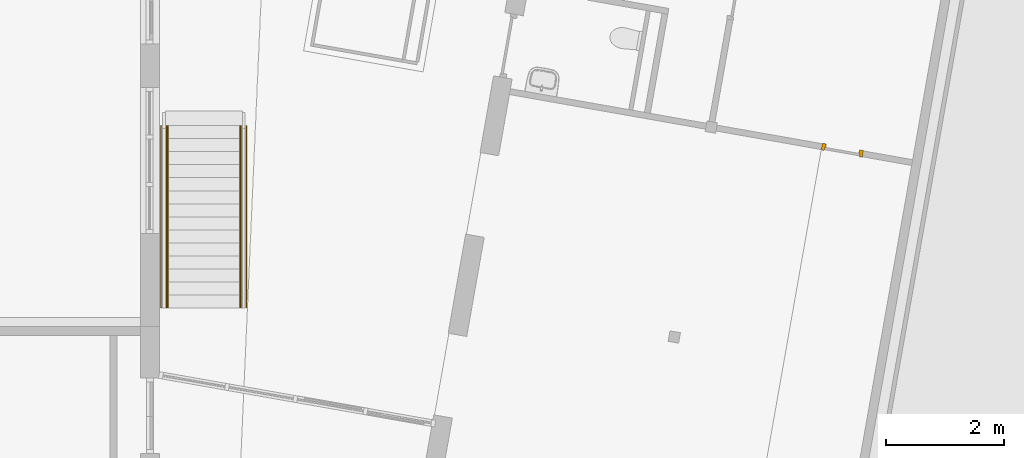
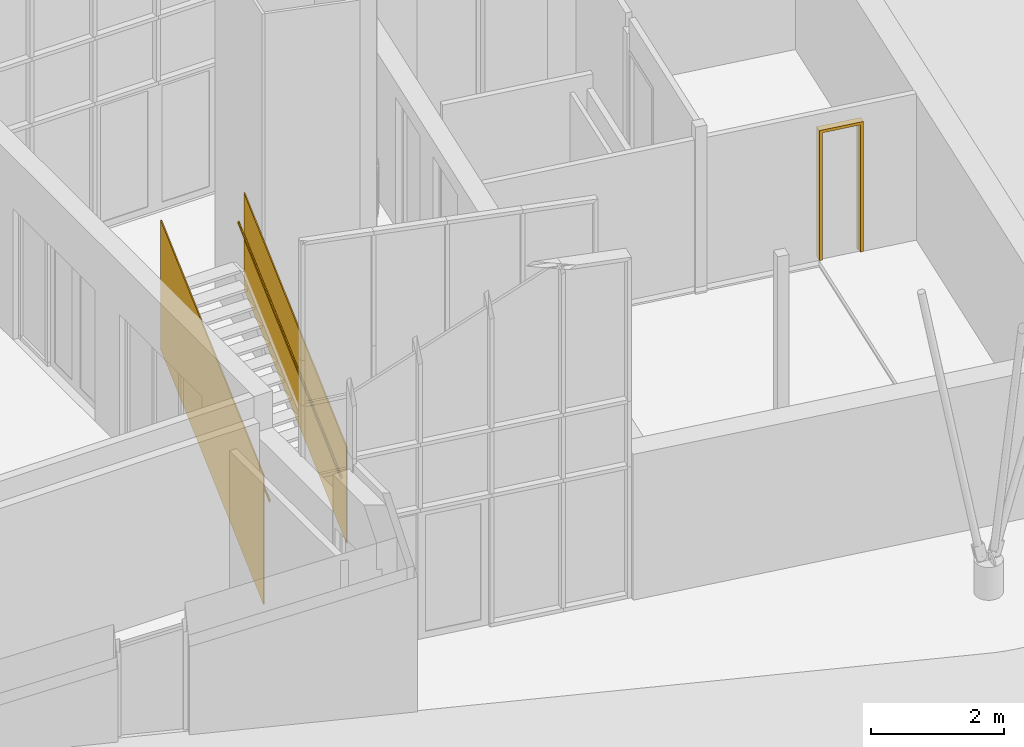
# One storey, part 18 of 21: 2 railings, 1 door, 1 element without a shape of its own.
"""IFC2X3 building model written with IfcOpenShell, lengths in millimetres."""

from ifc_helpers import new_model, entity, si_unit, converted_unit, derived_unit, direction, frame, origin, place, context, subcontext, project, spatial, faceted_brep, source, transform, mapped, material, material_list, type_object, type_shapes, element, aggregate, save


model = new_model("IFC2X3")

# Units and contexts
model_context = context("Model", 3, precision=0.01, world=origin(), true_north=direction((6.12303176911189e-17, 1.0)))
body_context = subcontext(model_context, "Body", "Model", "MODEL_VIEW")
ifc_project = project(units=[si_unit("LENGTHUNIT", "METRE", prefix="MILLI"), si_unit("AREAUNIT", "SQUARE_METRE"), si_unit("VOLUMEUNIT", "CUBIC_METRE"), converted_unit("PLANEANGLEUNIT", "DEGREE", entity("IfcRatioMeasure", 0.0174532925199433), si_unit("PLANEANGLEUNIT", "RADIAN"), dimensions=[0, 0, 0, 0, 0, 0, 0]), si_unit("MASSUNIT", "GRAM", prefix="KILO"), derived_unit("MASSDENSITYUNIT", [(si_unit("MASSUNIT", "GRAM", prefix="KILO"), 1), (si_unit("LENGTHUNIT", "METRE"), -3)]), derived_unit("MOMENTOFINERTIAUNIT", [(si_unit("LENGTHUNIT", "METRE"), 4)]), si_unit("TIMEUNIT", "SECOND"), si_unit("FREQUENCYUNIT", "HERTZ"), si_unit("THERMODYNAMICTEMPERATUREUNIT", "DEGREE_CELSIUS"), derived_unit("THERMALTRANSMITTANCEUNIT", [(si_unit("MASSUNIT", "GRAM", prefix="KILO"), 1), (si_unit("THERMODYNAMICTEMPERATUREUNIT", "KELVIN"), -1), (si_unit("TIMEUNIT", "SECOND"), -3)]), derived_unit("VOLUMETRICFLOWRATEUNIT", [(si_unit("LENGTHUNIT", "METRE"), 3), (si_unit("TIMEUNIT", "SECOND"), -1)]), si_unit("ELECTRICCURRENTUNIT", "AMPERE"), si_unit("ELECTRICVOLTAGEUNIT", "VOLT"), si_unit("POWERUNIT", "WATT"), si_unit("FORCEUNIT", "NEWTON", prefix="KILO"), si_unit("ILLUMINANCEUNIT", "LUX"), si_unit("LUMINOUSFLUXUNIT", "LUMEN"), si_unit("LUMINOUSINTENSITYUNIT", "CANDELA"), derived_unit("USERDEFINED", [(si_unit("MASSUNIT", "GRAM", prefix="KILO"), -1), (si_unit("LENGTHUNIT", "METRE"), -2), (si_unit("TIMEUNIT", "SECOND"), 3), (si_unit("LUMINOUSFLUXUNIT", "LUMEN"), 1)]), derived_unit("LINEARVELOCITYUNIT", [(si_unit("LENGTHUNIT", "METRE"), 1), (si_unit("TIMEUNIT", "SECOND"), -1)]), si_unit("PRESSUREUNIT", "PASCAL"), derived_unit("USERDEFINED", [(si_unit("LENGTHUNIT", "METRE"), -2), (si_unit("MASSUNIT", "GRAM", prefix="KILO"), 1), (si_unit("TIMEUNIT", "SECOND"), -2)]), derived_unit("LINEARFORCEUNIT", [(si_unit("MASSUNIT", "GRAM", prefix="KILO"), 1), (si_unit("LENGTHUNIT", "METRE"), 1), (si_unit("TIMEUNIT", "SECOND"), -2), (si_unit("LENGTHUNIT", "METRE"), -1)]), derived_unit("PLANARFORCEUNIT", [(si_unit("MASSUNIT", "GRAM", prefix="KILO"), 1), (si_unit("LENGTHUNIT", "METRE"), 1), (si_unit("TIMEUNIT", "SECOND"), -2), (si_unit("LENGTHUNIT", "METRE"), -2)])], contexts=[model_context])

# Site, building, storey
site_placement = place(None, origin())
site = spatial("IfcSite", under=ifc_project, at=site_placement, Name="<Kadaster Gemeente>;<Kadaster nummer>;<Kadaster sectie>", CompositionType="ELEMENT")
building_placement = place(site_placement, origin())
building = spatial("IfcBuilding", under=site, at=building_placement, Name="JRCZ Middelburg", CompositionType="ELEMENT")
storey_placement = place(building_placement, origin())
storey = spatial("IfcBuildingStorey", under=building, at=storey_placement, Name="00 begane grond", CompositionType="ELEMENT", Elevation=0.0)

# Door
ifc_material_1 = material(Name="<Unnamed>")
ifc_material_list_1 = material_list([ifc_material_1, ifc_material_1, ifc_material_1])
ifc_material_list_2 = material_list([ifc_material_1, ifc_material_1])
door_style = type_object("IfcDoorStyle", Name="NLRS_32_DO_UN_samenstelling binnenkozijn hout-SH_generiek_ISR:enkele deur_gen", ConstructionType="USERDEFINED", OperationType="NOTDEFINED", ParameterTakesPrecedence=False, Sizeable=False, material=ifc_material_list_2)
shared_shape = source(origin(), body_context, "Body", "Brep", [
    faceted_brep([(302.0, 0.0, 0.0), (352.0, 0.0, 0.0), (352.0, -114.0, 0.0), (285.0, -114.0, 0.0), (285.0, -54.0, 0.0), (302.0, -54.0, 0.0), (302.0, 0.0, 2327.0), (302.0, -54.0, 2310.0), (302.0, -54.0, 2327.0), (285.0, -54.0, 2310.0), (285.0, -114.0, 2310.0), (352.0, -114.0, 2310.0), (352.0, 0.0, 2327.0), (352.0, -54.0, 2327.0), (352.0, -54.0, 2310.0)], [[[0, 1, 2, 3, 4, 5]], [[6, 0, 5, 7, 8]], [[4, 9, 7, 5]], [[3, 10, 9, 4]], [[2, 11, 10, 3]], [[1, 12, 13, 14, 11, 2]], [[12, 1, 0, 6]], [[6, 8, 13, 12]], [[7, 9, 10, 11, 14]], [[14, 13, 8, 7]]]),
    faceted_brep([(-352.0, 0.0, 2327.0), (-352.0, -54.0, 2327.0), (-352.0, -54.0, 2310.0), (-352.0, -114.0, 2310.0), (-352.0, -114.0, 2377.0), (-352.0, 0.0, 2377.0), (352.0, 0.0, 2327.0), (352.0, 0.0, 2377.0), (352.0, -114.0, 2377.0), (352.0, -114.0, 2310.0), (352.0, -54.0, 2310.0), (352.0, -54.0, 2327.0)], [[[0, 1, 2, 3, 4, 5]], [[6, 7, 8, 9, 10, 11]], [[1, 0, 6, 11]], [[2, 1, 11, 10]], [[3, 2, 10, 9]], [[4, 3, 9, 8]], [[5, 4, 8, 7]], [[0, 5, 7, 6]]]),
    faceted_brep([(-302.0, 0.0, 0.0), (-302.0, -54.0, 0.0), (-285.0, -54.0, 0.0), (-285.0, -114.0, 0.0), (-352.0, -114.0, 0.0), (-352.0, 0.0, 0.0), (-302.0, 0.0, 2327.0), (-302.0, -54.0, 2327.0), (-302.0, -54.0, 2310.0), (-285.0, -54.0, 2310.0), (-285.0, -114.0, 2310.0), (-352.0, -114.0, 2310.0), (-352.0, -54.0, 2310.0), (-352.0, -54.0, 2327.0), (-352.0, 0.0, 2327.0)], [[[0, 1, 2, 3, 4, 5]], [[6, 7, 8, 1, 0]], [[2, 1, 8, 9]], [[3, 2, 9, 10]], [[4, 3, 10, 11]], [[5, 4, 11, 12, 13, 14]], [[14, 6, 0, 5]], [[6, 14, 13, 7]], [[8, 12, 11, 10, 9]], [[12, 8, 7, 13]]]),
])
type_shapes(door_style, [shared_shape])
door_placement = place(storey_placement, frame((28894.8994740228, 12918.5758047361, 0.0), z_axis=(0.0, 0.0, 1.0), x_axis=(-0.984807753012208, 0.173648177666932, 0.0)))
element("IfcDoor", 1, at=door_placement, inside=storey, type_object=door_style, material=ifc_material_list_1, Name="NLRS_32_DO_UN_samenstelling binnenkozijn hout-SH_generiek_ISR:enkele deur_gen", ObjectType="NLRS_32_DO_UN_samenstelling binnenkozijn hout-SH_generiek_ISR:enkele deur_gen", OverallHeight=2377.00000000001, OverallWidth=704.000000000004, context=body_context, shape_type="MappedRepresentation", body=[
    mapped(shared_shape, transform((0.0, 0.0, 0.0), scale=1.0)),
])

# Stair, railings
stair_placement = place(storey_placement, origin())
stair = element("IfcStair", 2, at=stair_placement, inside=storey, Name="Assembled Stair:Stair", ObjectType="Assembled Stair:RBM_ST_houten trap", ShapeType="STRAIGHT_RUN_STAIR")
ifc_material_2 = material(Name="Glass_RIPO")
ifc_material_list_3 = material_list([ifc_material_2, ifc_material_1])
railing_1_placement = place(stair_placement, frame((18716.1547277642, 10310.6069519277, -156.899033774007)))
railing_1 = element("IfcRailing", 3, at=railing_1_placement, material=ifc_material_list_3, Name="Railing:RBM_RA_glasbalustrade 02 TRAP", ObjectType="Railing:RBM_RA_glasbalustrade 02 TRAP", PredefinedType="NOTDEFINED", context=body_context, shape_type="Brep", body=[
    faceted_brep([(131.845272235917, 0.0, 1756.89903377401), (111.845272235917, 0.0, 1756.89903377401), (111.845272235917, 0.0, 0.0), (131.845272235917, 0.0, 0.0), (131.845272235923, 3080.0, 4556.89903377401), (131.845272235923, 3080.0, 2800.0), (111.845272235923, 3080.0, 2800.0), (111.845272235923, 3080.0, 4556.89903377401)], [[[0, 1, 2, 3]], [[4, 5, 6, 7]], [[1, 0, 4, 7]], [[2, 1, 7, 6]], [[3, 2, 6, 5]], [[0, 3, 5, 4]]]),
    faceted_brep([(32.5515222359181, 0.0, 1228.83162447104), (34.9327722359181, 0.0, 1234.40565152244), (37.3140222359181, 0.0, 1239.97967857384), (39.6952722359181, 0.0, 1245.55370562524), (37.8430586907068, 0.0, 1249.88936479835), (35.9908451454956, 0.0, 1254.22502397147), (33.0805586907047, 0.0, 1261.03741890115), (30.1702722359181, 0.0, 1267.84981383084), (25.4077722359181, 0.0, 1267.84981383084), (20.6452722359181, 0.0, 1267.84981383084), (15.8827722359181, 0.0, 1267.84981383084), (11.1202722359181, 0.0, 1267.84981383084), (8.73902223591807, 0.0, 1262.27578677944), (6.35777223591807, 0.0, 1256.70175972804), (3.44748578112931, 0.0, 1249.88936479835), (1.59527223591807, 0.0, 1245.55370562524), (3.97652223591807, 0.0, 1239.97967857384), (6.35777223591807, 0.0, 1234.40565152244), (8.73902223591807, 0.0, 1228.83162447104), (11.1202722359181, 0.0, 1223.25759741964), (15.8827722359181, 0.0, 1223.25759741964), (20.6452722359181, 0.0, 1223.25759741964), (25.4077722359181, 0.0, 1223.25759741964), (30.1702722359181, 0.0, 1223.25759741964), (11.1202722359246, 3080.0, 4023.25759741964), (8.20998578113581, 3080.0, 4030.06999234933), (5.29969932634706, 3080.0, 4036.88238727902), (3.44748578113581, 3080.0, 4041.21804645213), (1.59527223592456, 3080.0, 4045.55370562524), (3.97652223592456, 3080.0, 4051.12773267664), (6.35777223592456, 3080.0, 4056.70175972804), (8.73902223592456, 3080.0, 4062.27578677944), (11.1202722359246, 3080.0, 4067.84981383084), (15.8827722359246, 3080.0, 4067.84981383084), (20.6452722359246, 3080.0, 4067.84981383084), (25.4077722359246, 3080.0, 4067.84981383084), (30.1702722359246, 3080.0, 4067.84981383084), (32.5515222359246, 3080.0, 4062.27578677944), (34.9327722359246, 3080.0, 4056.70175972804), (37.3140222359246, 3080.0, 4051.12773267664), (39.6952722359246, 3080.0, 4045.55370562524), (37.8430586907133, 3080.0, 4041.21804645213), (34.9327722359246, 3080.0, 4034.40565152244), (32.5515222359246, 3080.0, 4028.83162447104), (30.1702722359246, 3080.0, 4023.25759741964), (25.4077722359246, 3080.0, 4023.25759741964), (20.6452722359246, 3080.0, 4023.25759741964), (15.8827722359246, 3080.0, 4023.25759741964)], [[[0, 1, 2, 3, 4, 5, 6, 7, 8, 9, 10, 11, 12, 13, 14, 15, 16, 17, 18, 19, 20, 21, 22, 23]], [[24, 25, 26, 27, 28, 29, 30, 31, 32, 33, 34, 35, 36, 37, 38, 39, 40, 41, 42, 43, 44, 45, 46, 47]], [[7, 6, 5, 4, 3, 40, 39, 38, 37, 36]], [[13, 12, 11, 32, 31, 30, 29, 28, 15, 14]], [[9, 8, 7, 36, 35, 34, 33, 32, 11, 10]], [[24, 19, 18, 17, 16, 15, 28, 27, 26, 25]], [[45, 44, 23, 22, 21, 20, 19, 24, 47, 46]], [[41, 40, 3, 2, 1, 0, 23, 44, 43, 42]]]),
])
ifc_material_list_4 = material_list([ifc_material_2, ifc_material_1])
railing_2_placement = place(stair_placement, frame((17388.0, 10310.6069519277, -765.056391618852)))
railing_2 = element("IfcRailing", 4, at=railing_2_placement, material=ifc_material_list_4, Name="Railing:RBM_RA_glasbalustrade", ObjectType="Railing:RBM_RA_glasbalustrade", PredefinedType="NOTDEFINED", context=body_context, shape_type="Brep", body=[
    faceted_brep([(0.0, 0.0, 2365.05639161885), (0.0, 0.0, 0.0), (20.0, 0.0, 0.0), (20.0, 0.0, 2365.05639161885), (0.0, 3080.0, 5165.05639161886), (20.0, 3080.0, 5165.05639161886), (20.0, 3080.0, 2800.0), (0.0, 3080.0, 2800.0)], [[[0, 1, 2, 3]], [[4, 5, 6, 7]], [[1, 0, 4, 7]], [[2, 1, 7, 6]], [[3, 2, 6, 5]], [[0, 3, 5, 4]]]),
    faceted_brep([(123.106250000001, 0.0, 1836.98898231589), (125.487499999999, 0.0, 1842.56300936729), (127.868750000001, 0.0, 1848.13703641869), (130.249999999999, 0.0, 1853.71106347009), (128.397786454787, 0.0, 1858.0467226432), (126.545572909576, 0.0, 1862.38238181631), (123.635286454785, 0.0, 1869.194776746), (120.724999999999, 0.0, 1876.00717167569), (115.962499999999, 0.0, 1876.00717167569), (111.199999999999, 0.0, 1876.00717167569), (106.437499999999, 0.0, 1876.00717167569), (101.674999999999, 0.0, 1876.00717167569), (99.2937499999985, 0.0, 1870.43314462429), (96.9124999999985, 0.0, 1864.85911757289), (94.0022135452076, 0.0, 1858.0467226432), (92.1499999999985, 0.0, 1853.71106347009), (94.5312499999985, 0.0, 1848.13703641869), (96.9124999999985, 0.0, 1842.56300936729), (99.2937500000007, 0.0, 1836.98898231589), (101.674999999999, 0.0, 1831.41495526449), (106.437499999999, 0.0, 1831.41495526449), (111.199999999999, 0.0, 1831.41495526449), (115.962499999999, 0.0, 1831.41495526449), (120.724999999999, 0.0, 1831.41495526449), (101.675000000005, 3080.0, 4631.4149552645), (98.7647135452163, 3080.0, 4638.22735019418), (95.8544270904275, 3080.0, 4645.03974512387), (94.0022135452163, 3080.0, 4649.37540429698), (92.150000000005, 3080.0, 4653.71106347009), (94.531250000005, 3080.0, 4659.28509052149), (96.912500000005, 3080.0, 4664.85911757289), (99.293750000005, 3080.0, 4670.43314462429), (101.675000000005, 3080.0, 4676.00717167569), (106.437500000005, 3080.0, 4676.00717167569), (111.200000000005, 3080.0, 4676.00717167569), (115.962500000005, 3080.0, 4676.00717167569), (120.725000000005, 3080.0, 4676.00717167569), (123.106250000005, 3080.0, 4670.43314462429), (125.487500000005, 3080.0, 4664.85911757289), (127.868750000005, 3080.0, 4659.28509052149), (130.250000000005, 3080.0, 4653.71106347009), (128.397786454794, 3080.0, 4649.37540429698), (125.487500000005, 3080.0, 4642.5630093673), (123.106250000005, 3080.0, 4636.9889823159), (120.725000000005, 3080.0, 4631.4149552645), (115.962500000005, 3080.0, 4631.4149552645), (111.200000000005, 3080.0, 4631.4149552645), (106.437500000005, 3080.0, 4631.4149552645)], [[[0, 1, 2, 3, 4, 5, 6, 7, 8, 9, 10, 11, 12, 13, 14, 15, 16, 17, 18, 19, 20, 21, 22, 23]], [[24, 25, 26, 27, 28, 29, 30, 31, 32, 33, 34, 35, 36, 37, 38, 39, 40, 41, 42, 43, 44, 45, 46, 47]], [[7, 6, 5, 4, 3, 40, 39, 38, 37, 36]], [[13, 12, 11, 32, 31, 30, 29, 28, 15, 14]], [[9, 8, 7, 36, 35, 34, 33, 32, 11, 10]], [[24, 19, 18, 17, 16, 15, 28, 27, 26, 25]], [[45, 44, 23, 22, 21, 20, 19, 24, 47, 46]], [[41, 40, 3, 2, 1, 0, 23, 44, 43, 42]]]),
])
aggregate(stair, [railing_1, railing_2])

save(model, "model.ifc")
